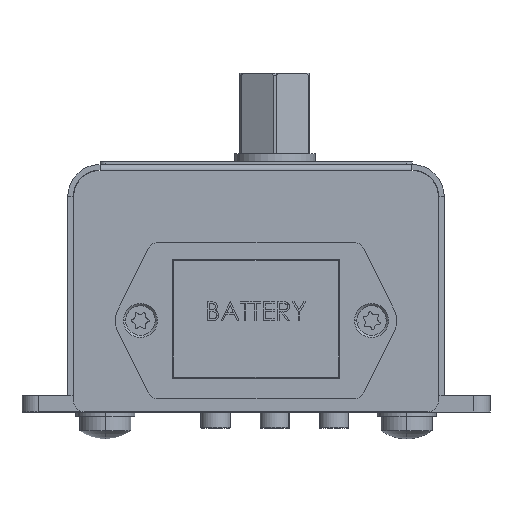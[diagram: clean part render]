
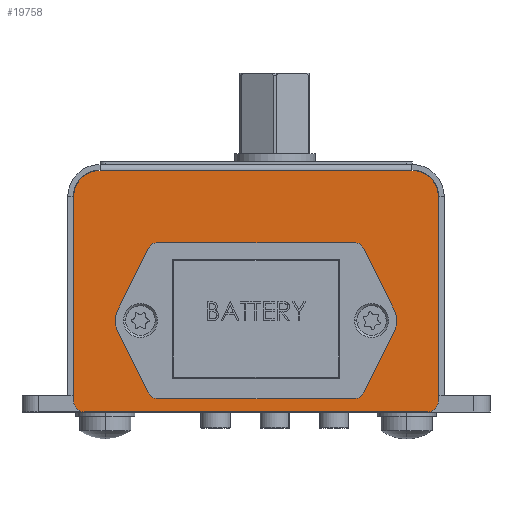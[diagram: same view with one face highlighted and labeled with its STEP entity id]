
A CAD part, front view. The second image highlights one B-rep face of the part: STEP entity #19758.
In plain terms, the highlighted planar face has unit normal (0, -1, 0).
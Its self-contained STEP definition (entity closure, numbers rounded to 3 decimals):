
#42 = EDGE_CURVE ( 'NONE', #2929, #27406, #46063, .T. ) ;
#472 = DIRECTION ( 'NONE',  ( 0., 0., 1. ) ) ;
#917 = FACE_BOUND ( 'NONE', #60422, .T. ) ;
#1870 = VERTEX_POINT ( 'NONE', #43662 ) ;
#2419 = ORIENTED_EDGE ( 'NONE', *, *, #90401, .F. ) ;
#2929 = VERTEX_POINT ( 'NONE', #116709 ) ;
#3100 = VECTOR ( 'NONE', #32141, 1000. ) ;
#3271 = ORIENTED_EDGE ( 'NONE', *, *, #42419, .F. ) ;
#4352 = CIRCLE ( 'NONE', #62903, 2.125 ) ;
#4637 = CIRCLE ( 'NONE', #122560, 4.9 ) ;
#5297 = DIRECTION ( 'NONE',  ( 0., 1., 0. ) ) ;
#6194 = VERTEX_POINT ( 'NONE', #7403 ) ;
#7403 = CARTESIAN_POINT ( 'NONE',  ( 21.35, -76.488, 16.448 ) ) ;
#7572 = CARTESIAN_POINT ( 'NONE',  ( -17.4, -76.488, 1.823 ) ) ;
#10692 = CARTESIAN_POINT ( 'NONE',  ( -21.65, -76.488, 14.323 ) ) ;
#10750 = VERTEX_POINT ( 'NONE', #65922 ) ;
#10805 = EDGE_CURVE ( 'NONE', #12795, #35683, #73158, .T. ) ;
#10910 = CARTESIAN_POINT ( 'NONE',  ( 17.1, -76.488, 1.823 ) ) ;
#11955 = PLANE ( 'NONE',  #99452 ) ;
#12062 = DIRECTION ( 'NONE',  ( 0., 1., 0. ) ) ;
#12795 = VERTEX_POINT ( 'NONE', #13573 ) ;
#12965 = CARTESIAN_POINT ( 'NONE',  ( -21.65, -76.488, 14.323 ) ) ;
#13573 = CARTESIAN_POINT ( 'NONE',  ( -32.05, -76.488, -2.677 ) ) ;
#13818 = CARTESIAN_POINT ( 'NONE',  ( 33.75, -76.488, -2.677 ) ) ;
#14443 = EDGE_CURVE ( 'NONE', #130141, #81415, #60190, .T. ) ;
#16630 = CARTESIAN_POINT ( 'NONE',  ( -17.4, -76.488, 1.823 ) ) ;
#18495 = LINE ( 'NONE', #7572, #59755 ) ;
#19123 = EDGE_CURVE ( 'NONE', #87622, #38474, #127928, .T. ) ;
#19581 = CARTESIAN_POINT ( 'NONE',  ( -29.15, -76.488, -2.677 ) ) ;
#19758 = ADVANCED_FACE ( 'NONE', ( #93302, #917, #107617, #120446 ), #11955, .T. ) ;
#20317 = EDGE_CURVE ( 'NONE', #6194, #115709, #69000, .T. ) ;
#21096 = VECTOR ( 'NONE', #77231, 1000. ) ;
#24152 = EDGE_CURVE ( 'NONE', #10750, #101803, #69542, .T. ) ;
#24522 = EDGE_CURVE ( 'NONE', #81415, #87622, #18495, .T. ) ;
#27406 = VERTEX_POINT ( 'NONE', #79640 ) ;
#27825 = DIRECTION ( 'NONE',  ( 0., 1., 0. ) ) ;
#28720 = ORIENTED_EDGE ( 'NONE', *, *, #123048, .T. ) ;
#31019 = AXIS2_PLACEMENT_3D ( 'NONE', #72960, #12062, #41414 ) ;
#31367 = ORIENTED_EDGE ( 'NONE', *, *, #19123, .F. ) ;
#31731 = AXIS2_PLACEMENT_3D ( 'NONE', #66362, #86422, #87717 ) ;
#32141 = DIRECTION ( 'NONE',  ( 0., 0., 1. ) ) ;
#33865 = DIRECTION ( 'NONE',  ( 0., 0., -1. ) ) ;
#35683 = VERTEX_POINT ( 'NONE', #47385 ) ;
#37096 = EDGE_LOOP ( 'NONE', ( #72513, #87076 ) ) ;
#37308 = CARTESIAN_POINT ( 'NONE',  ( 17.1, -76.488, 26.823 ) ) ;
#38474 = VERTEX_POINT ( 'NONE', #10910 ) ;
#38946 = EDGE_LOOP ( 'NONE', ( #111205, #98624, #31367, #72497 ) ) ;
#39994 = DIRECTION ( 'NONE',  ( 1., 0., 0. ) ) ;
#41160 = LINE ( 'NONE', #73427, #3100 ) ;
#41414 = DIRECTION ( 'NONE',  ( 1., 0., 0. ) ) ;
#42231 = DIRECTION ( 'NONE',  ( 0., 1., 0. ) ) ;
#42419 = EDGE_CURVE ( 'NONE', #1870, #10750, #86498, .T. ) ;
#43662 = CARTESIAN_POINT ( 'NONE',  ( 33.75, -76.488, 37.323 ) ) ;
#46063 = CIRCLE ( 'NONE', #82264, 2.125 ) ;
#47071 = DIRECTION ( 'NONE',  ( -1., 0., 0. ) ) ;
#47364 = ORIENTED_EDGE ( 'NONE', *, *, #10805, .F. ) ;
#47385 = CARTESIAN_POINT ( 'NONE',  ( -34.05, -76.488, -0.677 ) ) ;
#48844 = CARTESIAN_POINT ( 'NONE',  ( -34.05, -76.488, 37.323 ) ) ;
#50044 = ORIENTED_EDGE ( 'NONE', *, *, #57695, .T. ) ;
#52818 = VERTEX_POINT ( 'NONE', #48844 ) ;
#53953 = EDGE_CURVE ( 'NONE', #59745, #1870, #4637, .T. ) ;
#56186 = VECTOR ( 'NONE', #33865, 1000. ) ;
#56254 = LINE ( 'NONE', #19581, #67374 ) ;
#56904 = LINE ( 'NONE', #37308, #90339 ) ;
#57130 = AXIS2_PLACEMENT_3D ( 'NONE', #88366, #118306, #87928 ) ;
#57695 = EDGE_CURVE ( 'NONE', #115709, #6194, #62792, .T. ) ;
#58624 = CARTESIAN_POINT ( 'NONE',  ( 28.85, -76.488, 42.223 ) ) ;
#59745 = VERTEX_POINT ( 'NONE', #94203 ) ;
#59755 = VECTOR ( 'NONE', #130816, 1000. ) ;
#60190 = LINE ( 'NONE', #97342, #68156 ) ;
#60422 = EDGE_LOOP ( 'NONE', ( #84790, #50044 ) ) ;
#62792 = CIRCLE ( 'NONE', #74390, 2.125 ) ;
#62903 = AXIS2_PLACEMENT_3D ( 'NONE', #12965, #84554, #125617 ) ;
#63807 = DIRECTION ( 'NONE',  ( 0., 0., 1. ) ) ;
#65530 = CARTESIAN_POINT ( 'NONE',  ( -29.15, -76.488, 42.223 ) ) ;
#65922 = CARTESIAN_POINT ( 'NONE',  ( 33.75, -76.488, -0.677 ) ) ;
#66362 = CARTESIAN_POINT ( 'NONE',  ( -32.05, -76.488, -0.677 ) ) ;
#67374 = VECTOR ( 'NONE', #110366, 1000. ) ;
#68156 = VECTOR ( 'NONE', #47071, 1000. ) ;
#69000 = CIRCLE ( 'NONE', #101236, 2.125 ) ;
#69542 = CIRCLE ( 'NONE', #31019, 2. ) ;
#69544 = DIRECTION ( 'NONE',  ( 0., 0., 1. ) ) ;
#69964 = CARTESIAN_POINT ( 'NONE',  ( 21.35, -76.488, 14.323 ) ) ;
#71508 = CARTESIAN_POINT ( 'NONE',  ( 28.85, -76.488, 42.323 ) ) ;
#72497 = ORIENTED_EDGE ( 'NONE', *, *, #24522, .F. ) ;
#72513 = ORIENTED_EDGE ( 'NONE', *, *, #125948, .T. ) ;
#72960 = CARTESIAN_POINT ( 'NONE',  ( 31.75, -76.488, -0.677 ) ) ;
#72969 = CARTESIAN_POINT ( 'NONE',  ( -17.4, -76.488, 26.823 ) ) ;
#73158 = CIRCLE ( 'NONE', #31731, 2. ) ;
#73427 = CARTESIAN_POINT ( 'NONE',  ( -34.05, -76.488, -2.677 ) ) ;
#74390 = AXIS2_PLACEMENT_3D ( 'NONE', #69964, #27825, #69544 ) ;
#74912 = CARTESIAN_POINT ( 'NONE',  ( 21.35, -76.488, 14.323 ) ) ;
#77231 = DIRECTION ( 'NONE',  ( 1., 0., 0. ) ) ;
#78041 = EDGE_CURVE ( 'NONE', #35683, #52818, #41160, .T. ) ;
#78099 = CARTESIAN_POINT ( 'NONE',  ( 17.1, -76.488, 1.823 ) ) ;
#79640 = CARTESIAN_POINT ( 'NONE',  ( -21.65, -76.488, 16.448 ) ) ;
#80285 = EDGE_CURVE ( 'NONE', #38474, #130141, #56904, .T. ) ;
#81415 = VERTEX_POINT ( 'NONE', #72969 ) ;
#82004 = ORIENTED_EDGE ( 'NONE', *, *, #78041, .F. ) ;
#82264 = AXIS2_PLACEMENT_3D ( 'NONE', #10692, #42231, #472 ) ;
#82689 = ORIENTED_EDGE ( 'NONE', *, *, #86232, .F. ) ;
#83091 = DIRECTION ( 'NONE',  ( 0., -1., 0. ) ) ;
#84554 = DIRECTION ( 'NONE',  ( 0., 1., 0. ) ) ;
#84790 = ORIENTED_EDGE ( 'NONE', *, *, #20317, .T. ) ;
#86232 = EDGE_CURVE ( 'NONE', #52818, #98414, #113584, .T. ) ;
#86422 = DIRECTION ( 'NONE',  ( 0., 1., 0. ) ) ;
#86498 = LINE ( 'NONE', #13818, #56186 ) ;
#87076 = ORIENTED_EDGE ( 'NONE', *, *, #42, .T. ) ;
#87211 = EDGE_LOOP ( 'NONE', ( #2419, #82689, #82004, #47364, #28720, #128583, #3271, #120291 ) ) ;
#87622 = VERTEX_POINT ( 'NONE', #16630 ) ;
#87717 = DIRECTION ( 'NONE',  ( 1., 0., 0. ) ) ;
#87928 = DIRECTION ( 'NONE',  ( 0., 0., 1. ) ) ;
#88366 = CARTESIAN_POINT ( 'NONE',  ( -29.15, -76.488, 37.323 ) ) ;
#90339 = VECTOR ( 'NONE', #108502, 1000. ) ;
#90401 = EDGE_CURVE ( 'NONE', #98414, #59745, #111086, .T. ) ;
#91553 = DIRECTION ( 'NONE',  ( 0., 0., -1. ) ) ;
#93302 = FACE_BOUND ( 'NONE', #38946, .T. ) ;
#94203 = CARTESIAN_POINT ( 'NONE',  ( 28.85, -76.488, 42.223 ) ) ;
#97342 = CARTESIAN_POINT ( 'NONE',  ( -17.4, -76.488, 26.823 ) ) ;
#97434 = CARTESIAN_POINT ( 'NONE',  ( 17.1, -76.488, 26.823 ) ) ;
#98414 = VERTEX_POINT ( 'NONE', #65530 ) ;
#98624 = ORIENTED_EDGE ( 'NONE', *, *, #80285, .F. ) ;
#99287 = CARTESIAN_POINT ( 'NONE',  ( 21.35, -76.488, 12.198 ) ) ;
#99452 = AXIS2_PLACEMENT_3D ( 'NONE', #71508, #83091, #91553 ) ;
#101236 = AXIS2_PLACEMENT_3D ( 'NONE', #74912, #126238, #63807 ) ;
#101803 = VERTEX_POINT ( 'NONE', #119583 ) ;
#107552 = DIRECTION ( 'NONE',  ( 0., 0., 1. ) ) ;
#107617 = FACE_BOUND ( 'NONE', #37096, .T. ) ;
#108502 = DIRECTION ( 'NONE',  ( 0., 0., 1. ) ) ;
#110366 = DIRECTION ( 'NONE',  ( 1., 0., 0. ) ) ;
#111086 = LINE ( 'NONE', #58624, #119077 ) ;
#111205 = ORIENTED_EDGE ( 'NONE', *, *, #14443, .F. ) ;
#113584 = CIRCLE ( 'NONE', #57130, 4.9 ) ;
#115709 = VERTEX_POINT ( 'NONE', #99287 ) ;
#116709 = CARTESIAN_POINT ( 'NONE',  ( -21.65, -76.488, 12.198 ) ) ;
#117394 = CARTESIAN_POINT ( 'NONE',  ( 28.85, -76.488, 37.323 ) ) ;
#118306 = DIRECTION ( 'NONE',  ( 0., 1., 0. ) ) ;
#119077 = VECTOR ( 'NONE', #39994, 1000. ) ;
#119583 = CARTESIAN_POINT ( 'NONE',  ( 31.75, -76.488, -2.677 ) ) ;
#120291 = ORIENTED_EDGE ( 'NONE', *, *, #53953, .F. ) ;
#120446 = FACE_OUTER_BOUND ( 'NONE', #87211, .T. ) ;
#122560 = AXIS2_PLACEMENT_3D ( 'NONE', #117394, #5297, #107552 ) ;
#123048 = EDGE_CURVE ( 'NONE', #12795, #101803, #56254, .T. ) ;
#125617 = DIRECTION ( 'NONE',  ( 0., 0., 1. ) ) ;
#125948 = EDGE_CURVE ( 'NONE', #27406, #2929, #4352, .T. ) ;
#126238 = DIRECTION ( 'NONE',  ( 0., 1., 0. ) ) ;
#127928 = LINE ( 'NONE', #78099, #21096 ) ;
#128583 = ORIENTED_EDGE ( 'NONE', *, *, #24152, .F. ) ;
#130141 = VERTEX_POINT ( 'NONE', #97434 ) ;
#130816 = DIRECTION ( 'NONE',  ( 0., 0., -1. ) ) ;
